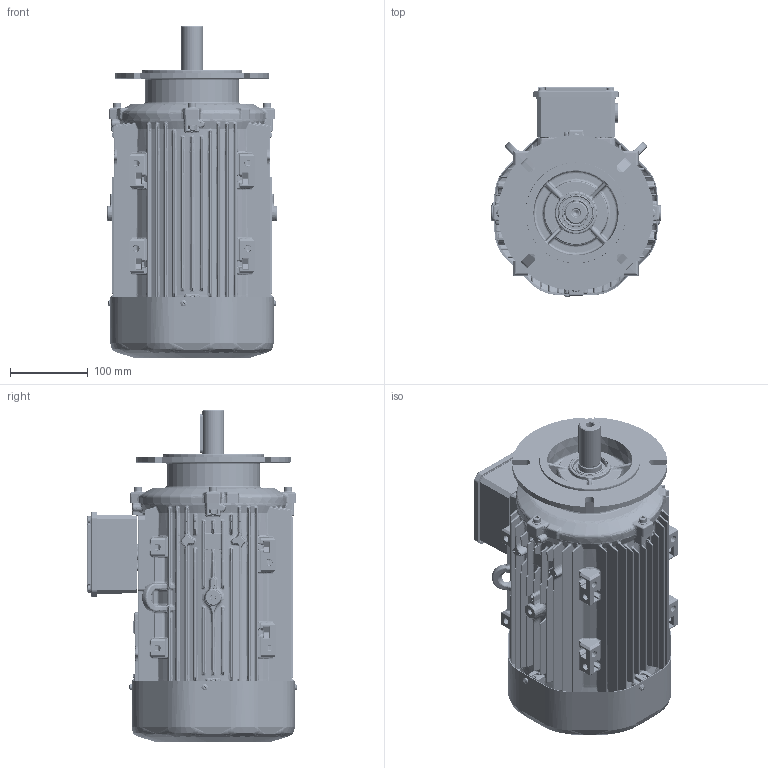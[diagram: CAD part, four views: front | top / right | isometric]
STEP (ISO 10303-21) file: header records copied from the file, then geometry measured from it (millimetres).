
FILE_DESCRIPTION(/* description */ (''),/* implementation_level */ '2;1');
FILE_NAME(/* name */ 'OUTLOOK VIEW QH112 FA B5 - REDUCED FF165 SPL.stp',/* time_stamp */ '2021-09-21T14:55:37+03:00',/* author */ (''),/* organization */ (''),/* preprocessor_version */ 'ST-DEVELOPER v16',/* originating_system */ 'SIEMENS PLM Software NX 11.0',/* authorisation */ '');
FILE_SCHEMA (('AUTOMOTIVE_DESIGN { 1 0 10303 214 3 1 1 1 }'));
Products named in the file (1): 260652D491E0rx5o
Bounding box: 219 x 270.61 x 427.6 mm (x, y, z)
Volume: 2367363.1 mm3; surface area: 1181198.2 mm2
Topology: 65 solids, 71 shells, 11534 faces, 27258 edges, 15472 vertices
Faces by surface type: cylinder 3677, bspline 3571, plane 2239, sphere 880, torus 585, cone 552, extrusion 30
Full cylindrical faces by diameter (mm): 2 x14, 3 x2, 3.3 x4, 3.7 x4, 3.985 x1, 4 x9, 4.22 x1, 4.6 x3, 4.722 x2, 5 x11, 6 x8, 6.4 x12, 8 x9, 8.5 x1, 10 x8, 10.5 x1, 12 x8, 23.38 x2, 24.4 x1, 25 x3, 27.4 x1, 28 x1, 28.6 x1, 29.4 x2, 30 x5, 30.2 x1, 30.5 x1, 32.94 x1, 34 x3, 40.36 x4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
Entity records: 399880 total; most frequent: CARTESIAN_POINT 158935, ORIENTED_EDGE 52136, DIRECTION 47301, EDGE_CURVE 26068, AXIS2_PLACEMENT_3D 19610, VERTEX_POINT 15293, EDGE_LOOP 12585, ADVANCED_FACE 11527
